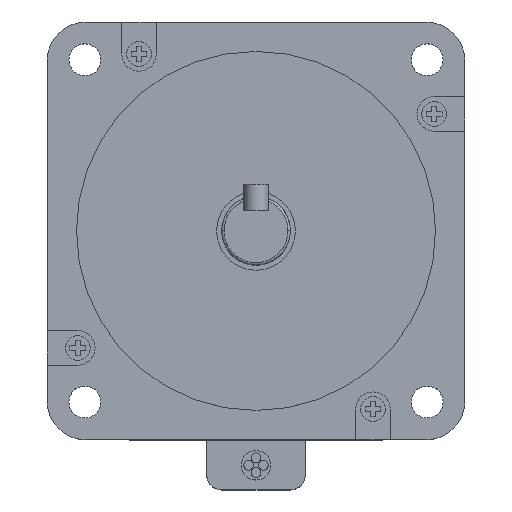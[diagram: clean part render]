
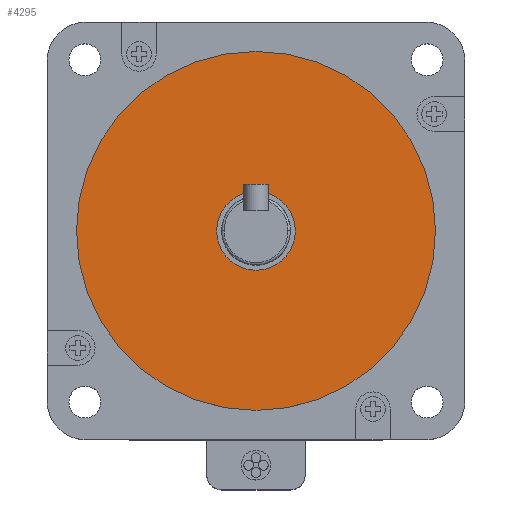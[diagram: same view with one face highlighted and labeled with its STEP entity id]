
A CAD part, top view. The second image highlights one B-rep face of the part: STEP entity #4295.
In plain terms, the highlighted planar face has unit normal (0, 0, 1).
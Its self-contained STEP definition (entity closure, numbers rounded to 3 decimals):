
#7 = CARTESIAN_POINT ( 'NONE',  ( 0., 0., 2. ) ) ;
#286 = DIRECTION ( 'NONE',  ( -1., 0., 0. ) ) ;
#368 = VERTEX_POINT ( 'NONE', #3865 ) ;
#688 = EDGE_LOOP ( 'NONE', ( #4545, #6086 ) ) ;
#851 = DIRECTION ( 'NONE',  ( -1., 0., 0. ) ) ;
#1047 = CARTESIAN_POINT ( 'NONE',  ( 0., 0., 2. ) ) ;
#1150 = DIRECTION ( 'NONE',  ( 0., 0., 1. ) ) ;
#1464 = FACE_BOUND ( 'NONE', #688, .T. ) ;
#1562 = AXIS2_PLACEMENT_3D ( 'NONE', #8164, #1150, #8940 ) ;
#1658 = EDGE_CURVE ( 'NONE', #368, #5080, #6420, .T. ) ;
#2097 = EDGE_LOOP ( 'NONE', ( #6267, #3384 ) ) ;
#2173 = AXIS2_PLACEMENT_3D ( 'NONE', #7986, #4492, #286 ) ;
#2575 = VERTEX_POINT ( 'NONE', #6925 ) ;
#3184 = AXIS2_PLACEMENT_3D ( 'NONE', #7, #3505, #7708 ) ;
#3384 = ORIENTED_EDGE ( 'NONE', *, *, #7271, .T. ) ;
#3505 = DIRECTION ( 'NONE',  ( 0., 0., 1. ) ) ;
#3865 = CARTESIAN_POINT ( 'NONE',  ( 8., 0., 2. ) ) ;
#3959 = CARTESIAN_POINT ( 'NONE',  ( -8., 0., 2. ) ) ;
#4237 = FACE_OUTER_BOUND ( 'NONE', #2097, .T. ) ;
#4257 = CARTESIAN_POINT ( 'NONE',  ( -36.513, 0., 2. ) ) ;
#4295 = ADVANCED_FACE ( 'NONE', ( #4237, #1464 ), #8870, .T. ) ;
#4436 = AXIS2_PLACEMENT_3D ( 'NONE', #1047, #6307, #8499 ) ;
#4492 = DIRECTION ( 'NONE',  ( 0., 0., 1. ) ) ;
#4545 = ORIENTED_EDGE ( 'NONE', *, *, #5417, .T. ) ;
#4719 = EDGE_CURVE ( 'NONE', #6960, #2575, #4883, .T. ) ;
#4883 = CIRCLE ( 'NONE', #3184, 36.513 ) ;
#5080 = VERTEX_POINT ( 'NONE', #3959 ) ;
#5102 = CIRCLE ( 'NONE', #2173, 36.513 ) ;
#5417 = EDGE_CURVE ( 'NONE', #5080, #368, #7007, .T. ) ;
#5777 = AXIS2_PLACEMENT_3D ( 'NONE', #5817, #5788, #851 ) ;
#5788 = DIRECTION ( 'NONE',  ( 0., 0., -1. ) ) ;
#5817 = CARTESIAN_POINT ( 'NONE',  ( 0., 0., 2. ) ) ;
#6086 = ORIENTED_EDGE ( 'NONE', *, *, #1658, .T. ) ;
#6267 = ORIENTED_EDGE ( 'NONE', *, *, #4719, .T. ) ;
#6307 = DIRECTION ( 'NONE',  ( 0., 0., -1. ) ) ;
#6420 = CIRCLE ( 'NONE', #4436, 8. ) ;
#6925 = CARTESIAN_POINT ( 'NONE',  ( 36.513, 0., 2. ) ) ;
#6960 = VERTEX_POINT ( 'NONE', #4257 ) ;
#7007 = CIRCLE ( 'NONE', #5777, 8. ) ;
#7271 = EDGE_CURVE ( 'NONE', #2575, #6960, #5102, .T. ) ;
#7708 = DIRECTION ( 'NONE',  ( -1., 0., 0. ) ) ;
#7986 = CARTESIAN_POINT ( 'NONE',  ( 0., 0., 2. ) ) ;
#8164 = CARTESIAN_POINT ( 'NONE',  ( 0., 0., 2. ) ) ;
#8499 = DIRECTION ( 'NONE',  ( -1., 0., 0. ) ) ;
#8870 = PLANE ( 'NONE',  #1562 ) ;
#8940 = DIRECTION ( 'NONE',  ( 1., 0., 0. ) ) ;
